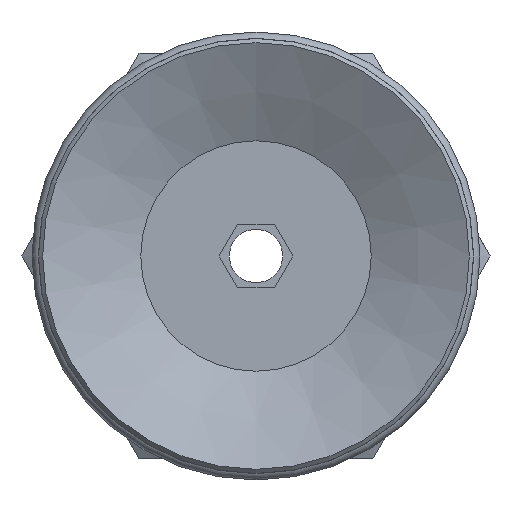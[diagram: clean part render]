
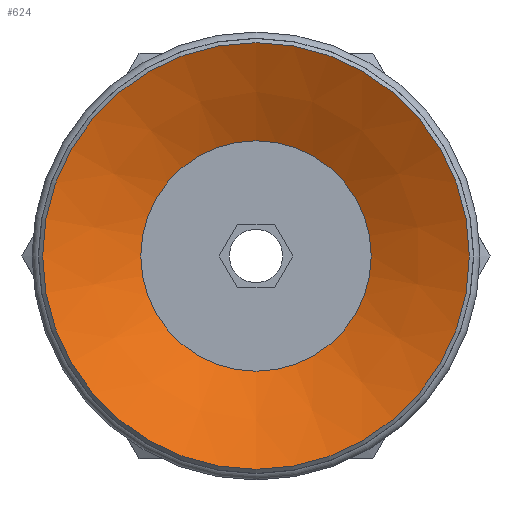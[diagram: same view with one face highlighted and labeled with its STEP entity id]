
A CAD part, front view. The second image highlights one B-rep face of the part: STEP entity #624.
In plain terms, the highlighted conical face has half-angle 63 degrees and reference radius 5.4 mm.
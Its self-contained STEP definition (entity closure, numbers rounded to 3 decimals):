
#624=ADVANCED_FACE('',(#946,#947),#948,.F.);
#946=FACE_BOUND('',#1347,.T.);
#947=FACE_OUTER_BOUND('',#1348,.T.);
#948=CONICAL_SURFACE('',#1349,5.4,1.1);
#1347=EDGE_LOOP('',(#2454));
#1348=EDGE_LOOP('',(#2455));
#1349=AXIS2_PLACEMENT_3D('',#2456,#2457,#2458);
#2454=ORIENTED_EDGE('',*,*,#2988,.F.);
#2455=ORIENTED_EDGE('',*,*,#2993,.T.);
#2456=CARTESIAN_POINT('',(0.0,5.518,0.0));
#2457=DIRECTION('',(-0.0,-1.0,0.));
#2458=DIRECTION('',(0.0,0.,-1.0));
#2988=EDGE_CURVE('',#3434,#3434,#3435,.T.);
#2993=EDGE_CURVE('',#3444,#3444,#3445,.T.);
#3434=VERTEX_POINT('',#4372);
#3435=CIRCLE('',#4373,5.4);
#3444=VERTEX_POINT('',#4382);
#3445=CIRCLE('',#4383,10.0);
#4372=CARTESIAN_POINT('',(0.0,5.518,-5.4));
#4373=AXIS2_PLACEMENT_3D('',#5154,#5155,#5156);
#4382=CARTESIAN_POINT('',(0.0,3.175,-10.0));
#4383=AXIS2_PLACEMENT_3D('',#5169,#5170,#5171);
#5154=CARTESIAN_POINT('',(0.0,5.518,0.0));
#5155=DIRECTION('',(0.0,-1.0,0.));
#5156=DIRECTION('',(0.0,0.,-1.0));
#5169=CARTESIAN_POINT('',(0.0,3.175,0.0));
#5170=DIRECTION('',(0.0,-1.0,0.));
#5171=DIRECTION('',(0.0,0.,-1.0));
